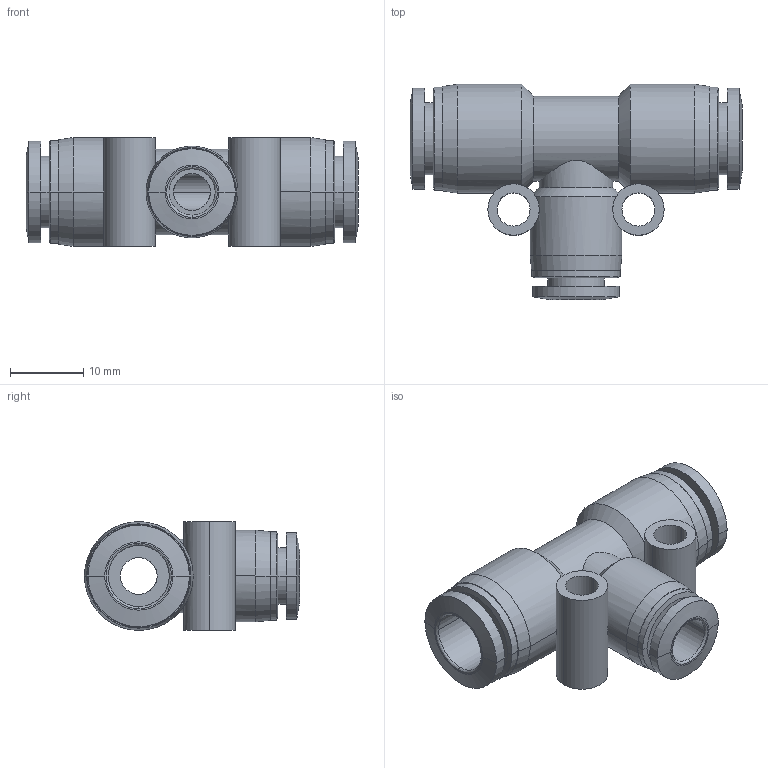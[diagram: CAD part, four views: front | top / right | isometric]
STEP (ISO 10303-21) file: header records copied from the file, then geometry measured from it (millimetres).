
FILE_DESCRIPTION (( 'STEP AP203' ), '1' );
FILE_NAME ('FRT06-08.STEP', '2020-05-12T19:24:09', ( '' ), ( '' ), 'SwSTEP 2.0', 'SolidWorks 2019', '' );
FILE_SCHEMA (( 'CONFIG_CONTROL_DESIGN' ));
Length unit declared in the file: millimetre
Products named in the file (1): FRT06-08
Bounding box: 45.2 x 29.3 x 14.8 mm (x, y, z)
Volume: 6140.2 mm3; surface area: 5601.9 mm2
Topology: 1 solids, 1 shells, 95 faces, 224 edges, 140 vertices
Faces by surface type: cylinder 46, cone 24, plane 19, bspline 6
Entity records: 3695 total; most frequent: CARTESIAN_POINT 1400, DIRECTION 490, ORIENTED_EDGE 448, EDGE_CURVE 224, AXIS2_PLACEMENT_3D 208, VERTEX_POINT 140, CIRCLE 118, EDGE_LOOP 116
